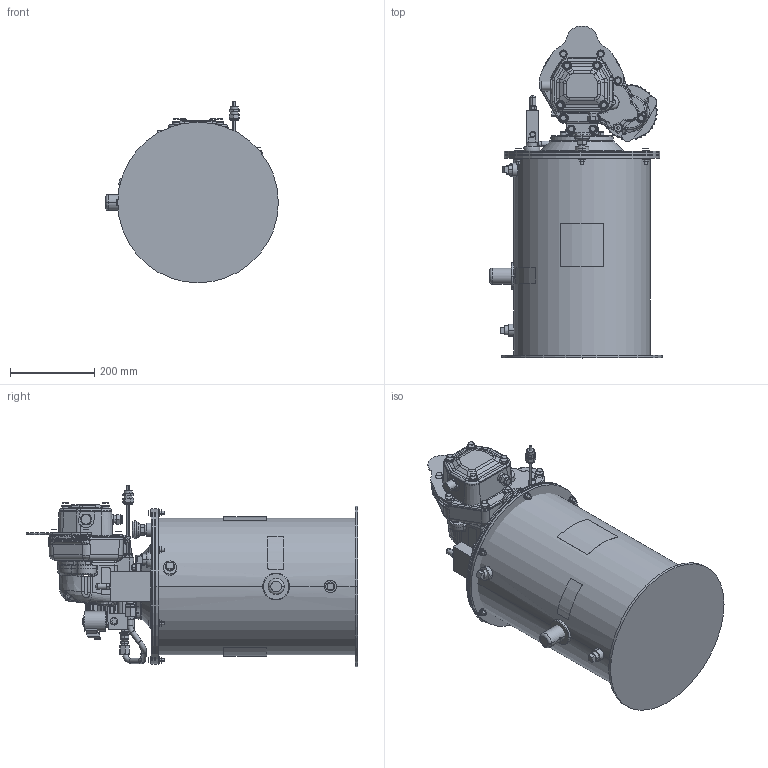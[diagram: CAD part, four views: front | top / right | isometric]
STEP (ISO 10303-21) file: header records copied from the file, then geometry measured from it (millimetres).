
FILE_DESCRIPTION((''),'2;1');
FILE_NAME('77X202-EN-N_PRT','2024-05-23T12:42:04',('qtmwp1'),(''),'CREO PARAMETRIC BY PTC INC, 2023424','CREO PARAMETRIC BY PTC INC, 2023424','');
FILE_SCHEMA(('CONFIG_CONTROL_DESIGN'));
Products named in the file (1): 77X202-EN-N_PRT
Bounding box: 409.7 x 787.15 x 430.78 mm (x, y, z)
Surface area: 1859494.8 mm2 (no closed solid volume)
Topology: 0 solids, 187 shells, 1678 faces, 5450 edges, 3798 vertices
Faces by surface type: plane 571, cone 363, cylinder 304, bspline 253, torus 181, sphere 6
Entity records: 81684 total; most frequent: CARTESIAN_POINT 38428, ORIENTED_EDGE 8577, DIRECTION 8225, EDGE_CURVE 5447, VERTEX_POINT 3798, AXIS2_PLACEMENT_3D 3140, VECTOR 1945, LINE 1945
